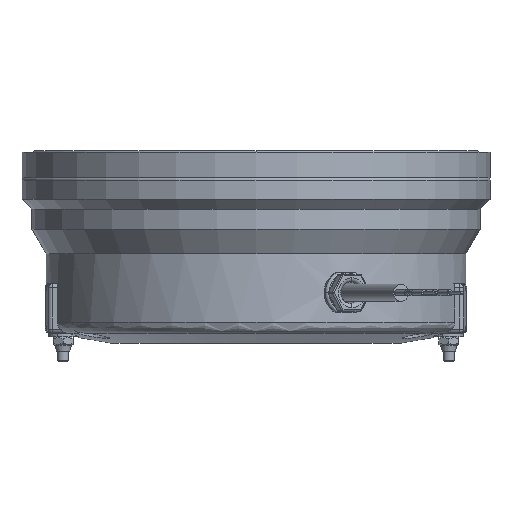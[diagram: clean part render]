
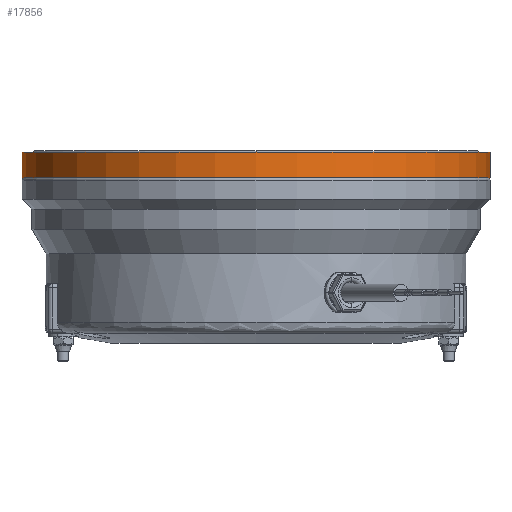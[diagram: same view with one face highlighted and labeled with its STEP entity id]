
A CAD part, front view. The second image highlights one B-rep face of the part: STEP entity #17856.
In plain terms, the highlighted cylindrical face has radius 82.5 mm (diameter 165 mm), a partial arc.
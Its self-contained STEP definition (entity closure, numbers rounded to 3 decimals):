
#3477 = VERTEX_POINT ( 'NONE', #22311 ) ;
#3916 = DIRECTION ( 'NONE',  ( 0., 0., 1. ) ) ;
#4627 = LINE ( 'NONE', #22662, #40297 ) ;
#8291 = LINE ( 'NONE', #16857, #32819 ) ;
#8627 = DIRECTION ( 'NONE',  ( 0., 0., 1. ) ) ;
#9482 = EDGE_CURVE ( 'NONE', #53222, #3477, #18016, .T. ) ;
#9749 = EDGE_CURVE ( 'NONE', #53222, #15934, #4627, .T. ) ;
#10009 = CARTESIAN_POINT ( 'NONE',  ( 0., 0., 82.5 ) ) ;
#10655 = EDGE_CURVE ( 'NONE', #3477, #19610, #8291, .T. ) ;
#12304 = AXIS2_PLACEMENT_3D ( 'NONE', #25849, #12811, #3916 ) ;
#12608 = ORIENTED_EDGE ( 'NONE', *, *, #9749, .F. ) ;
#12811 = DIRECTION ( 'NONE',  ( -1., 0., 0. ) ) ;
#15934 = VERTEX_POINT ( 'NONE', #10009 ) ;
#16857 = CARTESIAN_POINT ( 'NONE',  ( 0., 0., -82.5 ) ) ;
#17856 = ADVANCED_FACE ( 'NONE', ( #45385 ), #22790, .T. ) ;
#18016 = CIRCLE ( 'NONE', #46450, 82.5 ) ;
#19539 = DIRECTION ( 'NONE',  ( 0., 0., 1. ) ) ;
#19610 = VERTEX_POINT ( 'NONE', #57600 ) ;
#22311 = CARTESIAN_POINT ( 'NONE',  ( 9., 0., -82.5 ) ) ;
#22662 = CARTESIAN_POINT ( 'NONE',  ( 0., 0., 82.5 ) ) ;
#22790 = CYLINDRICAL_SURFACE ( 'NONE', #32748, 82.5 ) ;
#25849 = CARTESIAN_POINT ( 'NONE',  ( 0., 0., 0. ) ) ;
#26474 = EDGE_LOOP ( 'NONE', ( #43092, #30616, #27089, #12608 ) ) ;
#27089 = ORIENTED_EDGE ( 'NONE', *, *, #56950, .F. ) ;
#30616 = ORIENTED_EDGE ( 'NONE', *, *, #10655, .T. ) ;
#31430 = DIRECTION ( 'NONE',  ( -1., 0., 0. ) ) ;
#32748 = AXIS2_PLACEMENT_3D ( 'NONE', #40922, #50164, #19539 ) ;
#32819 = VECTOR ( 'NONE', #52757, 1000. ) ;
#34387 = CARTESIAN_POINT ( 'NONE',  ( 9., 0., 82.5 ) ) ;
#40297 = VECTOR ( 'NONE', #58290, 1000. ) ;
#40922 = CARTESIAN_POINT ( 'NONE',  ( 0., 0., 0. ) ) ;
#43092 = ORIENTED_EDGE ( 'NONE', *, *, #9482, .T. ) ;
#44484 = CARTESIAN_POINT ( 'NONE',  ( 9., 0., 0. ) ) ;
#45385 = FACE_OUTER_BOUND ( 'NONE', #26474, .T. ) ;
#46450 = AXIS2_PLACEMENT_3D ( 'NONE', #44484, #31430, #8627 ) ;
#50164 = DIRECTION ( 'NONE',  ( -1., 0., 0. ) ) ;
#52082 = CIRCLE ( 'NONE', #12304, 82.5 ) ;
#52757 = DIRECTION ( 'NONE',  ( -1., 0., 0. ) ) ;
#53222 = VERTEX_POINT ( 'NONE', #34387 ) ;
#56950 = EDGE_CURVE ( 'NONE', #15934, #19610, #52082, .T. ) ;
#57600 = CARTESIAN_POINT ( 'NONE',  ( 0., 0., -82.5 ) ) ;
#58290 = DIRECTION ( 'NONE',  ( -1., 0., 0. ) ) ;
